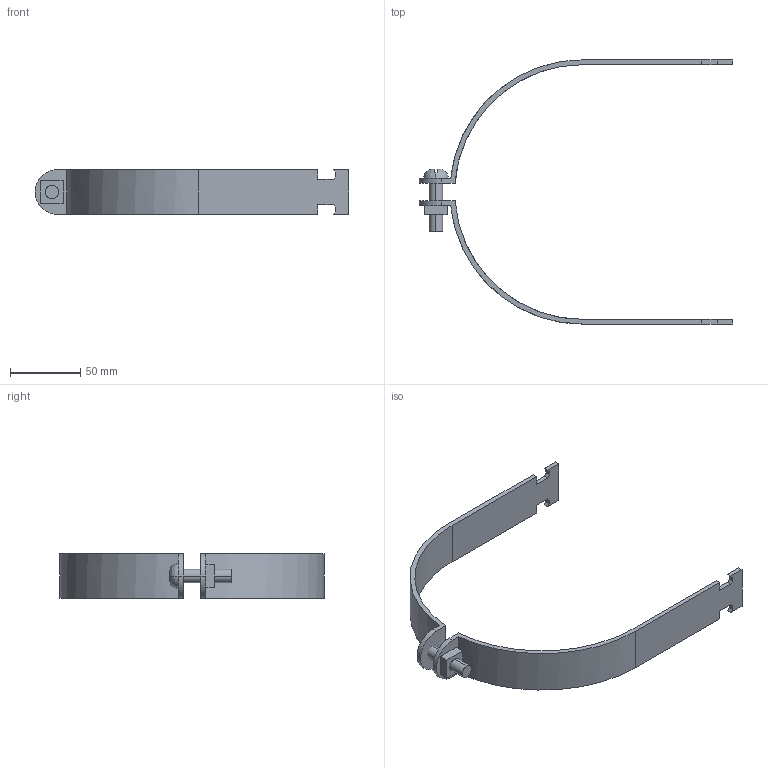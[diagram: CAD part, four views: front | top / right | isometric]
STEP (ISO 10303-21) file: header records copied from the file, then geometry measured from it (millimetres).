
FILE_DESCRIPTION(('TurboCAD Mac Pro'),'Build 980');
FILE_NAME('P2070-71.stp',' ',(''),(''),'ACIS Interop','IMSI','TurboCAD Mac Pro BY IMSI, INCORPORATED');
FILE_SCHEMA(('automotive_design'));
Length unit declared in the file: inch
Products named in the file (5): 1; 2; 3; 4; 5
Bounding box: 223.05 x 187.77 x 31.75 mm (x, y, z)
Volume: 61348.1 mm3; surface area: 39956.7 mm2
Topology: 4 solids, 4 shells, 71 faces, 186 edges, 124 vertices
Faces by surface type: plane 51, bspline 20
Entity records: 3487 total; most frequent: CARTESIAN_POINT 1050, ORIENTED_EDGE 372, DIRECTION 258, EDGE_CURVE 186, LINE 138, VECTOR 138, VERTEX_POINT 124, STYLED_ITEM 91
